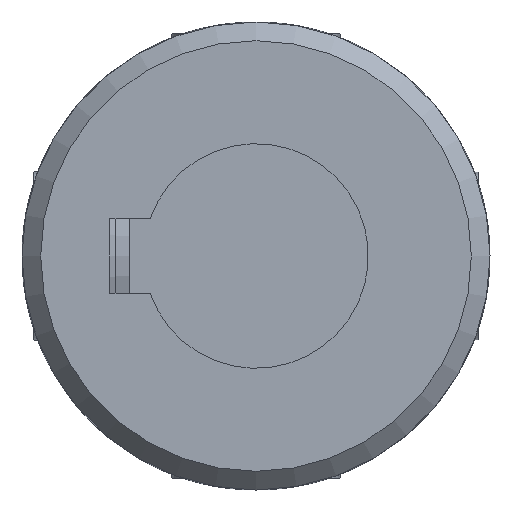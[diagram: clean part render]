
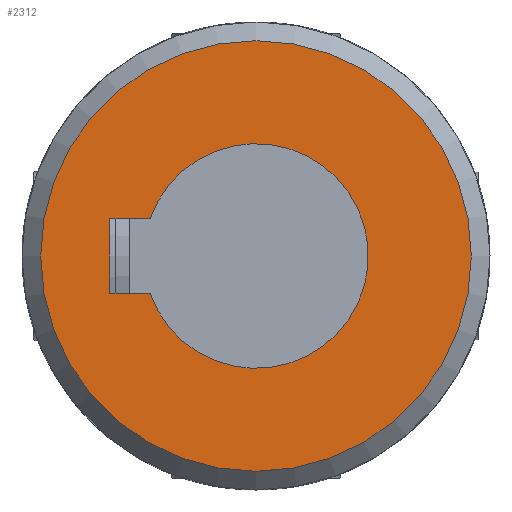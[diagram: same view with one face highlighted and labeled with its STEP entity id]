
A CAD part, front view. The second image highlights one B-rep face of the part: STEP entity #2312.
In plain terms, the highlighted planar face has unit normal (0, -1, 0).
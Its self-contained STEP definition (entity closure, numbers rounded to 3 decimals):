
#123=LINE('',#4187,#192);
#128=LINE('',#4204,#197);
#129=LINE('',#4217,#198);
#192=VECTOR('',#2985,2.143);
#197=VECTOR('',#2996,2.143);
#198=VECTOR('',#2999,4.);
#260=PLANE('',#2535);
#488=FACE_BOUND('',#773,.T.);
#591=FACE_OUTER_BOUND('',#772,.T.);
#772=EDGE_LOOP('',(#1923));
#773=EDGE_LOOP('',(#1924,#1925,#1926,#1927));
#917=CIRCLE('',#2523,6.);
#922=CIRCLE('',#2533,11.5);
#1095=VERTEX_POINT('',#4176);
#1096=VERTEX_POINT('',#4178);
#1098=VERTEX_POINT('',#4186);
#1104=VERTEX_POINT('',#4202);
#1106=VERTEX_POINT('',#4223);
#1377=EDGE_CURVE('',#1096,#1095,#917,.T.);
#1380=EDGE_CURVE('',#1098,#1096,#123,.T.);
#1388=EDGE_CURVE('',#1095,#1104,#128,.T.);
#1390=EDGE_CURVE('',#1104,#1098,#129,.T.);
#1393=EDGE_CURVE('',#1106,#1106,#922,.T.);
#1923=ORIENTED_EDGE('',*,*,#1393,.F.);
#1924=ORIENTED_EDGE('',*,*,#1388,.T.);
#1925=ORIENTED_EDGE('',*,*,#1390,.T.);
#1926=ORIENTED_EDGE('',*,*,#1380,.T.);
#1927=ORIENTED_EDGE('',*,*,#1377,.T.);
#2312=ADVANCED_FACE('',(#591,#488),#260,.F.);
#2523=AXIS2_PLACEMENT_3D('',#4179,#2980,#2981);
#2533=AXIS2_PLACEMENT_3D('',#4224,#3008,#3009);
#2535=AXIS2_PLACEMENT_3D('',#4440,#3016,#3017);
#2980=DIRECTION('center_axis',(0.,1.,0.));
#2981=DIRECTION('ref_axis',(0.333,0.,-0.943));
#2985=DIRECTION('',(0.,0.,1.));
#2996=DIRECTION('',(0.,0.,-1.));
#2999=DIRECTION('',(-1.,0.,0.));
#3008=DIRECTION('center_axis',(0.,1.,0.));
#3009=DIRECTION('ref_axis',(1.,0.,0.));
#3016=DIRECTION('center_axis',(0.,1.,0.));
#3017=DIRECTION('ref_axis',(0.,0.,1.));
#4176=CARTESIAN_POINT('',(2.,-34.5,-5.657));
#4178=CARTESIAN_POINT('',(-2.,-34.5,-5.657));
#4179=CARTESIAN_POINT('Origin',(0.,-34.5,0.));
#4186=CARTESIAN_POINT('',(-2.,-34.5,-7.8));
#4187=CARTESIAN_POINT('',(-2.,-34.5,-3.9));
#4202=CARTESIAN_POINT('',(2.,-34.5,-7.8));
#4204=CARTESIAN_POINT('',(2.,-34.5,-2.828));
#4217=CARTESIAN_POINT('',(1.,-34.5,-7.8));
#4223=CARTESIAN_POINT('',(-11.5,-34.5,0.));
#4224=CARTESIAN_POINT('Origin',(0.,-34.5,0.));
#4440=CARTESIAN_POINT('Origin',(0.,-34.5,0.));
